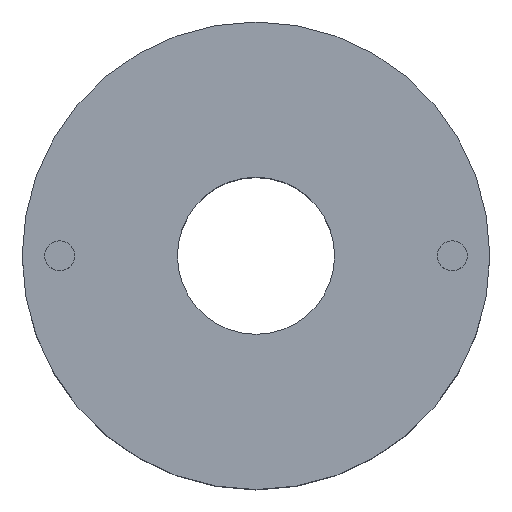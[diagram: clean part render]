
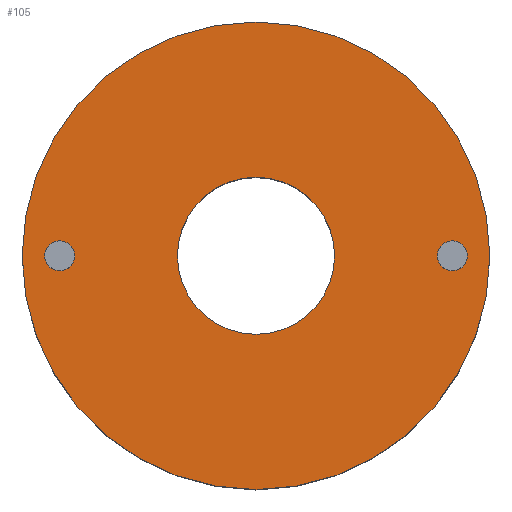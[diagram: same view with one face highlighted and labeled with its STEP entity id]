
A CAD part, top view. The second image highlights one B-rep face of the part: STEP entity #105.
In plain terms, the highlighted planar face has unit normal (0, 0, 1).
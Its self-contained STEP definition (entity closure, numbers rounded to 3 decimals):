
#21 = EDGE_CURVE('',#22,#22,#24,.T.);
#22 = VERTEX_POINT('',#23);
#23 = CARTESIAN_POINT('',(12.5,0.,-13.45));
#24 = SURFACE_CURVE('',#25,(#30,#42),.PCURVE_S1.);
#25 = CIRCLE('',#26,12.5);
#26 = AXIS2_PLACEMENT_3D('',#27,#28,#29);
#27 = CARTESIAN_POINT('',(0.,0.,-13.45));
#28 = DIRECTION('',(0.,0.,1.));
#29 = DIRECTION('',(1.,0.,-0.));
#30 = PCURVE('',#31,#36);
#31 = CYLINDRICAL_SURFACE('',#32,12.5);
#32 = AXIS2_PLACEMENT_3D('',#33,#34,#35);
#33 = CARTESIAN_POINT('',(0.,0.,-25.45));
#34 = DIRECTION('',(0.,0.,1.));
#35 = DIRECTION('',(1.,0.,-0.));
#36 = DEFINITIONAL_REPRESENTATION('',(#37),#41);
#37 = LINE('',#38,#39);
#38 = CARTESIAN_POINT('',(0.,12.));
#39 = VECTOR('',#40,1.);
#40 = DIRECTION('',(1.,0.));
#41 = ( GEOMETRIC_REPRESENTATION_CONTEXT(2) 
PARAMETRIC_REPRESENTATION_CONTEXT() REPRESENTATION_CONTEXT('2D SPACE',''
  ) );
#42 = PCURVE('',#43,#48);
#43 = PLANE('',#44);
#44 = AXIS2_PLACEMENT_3D('',#45,#46,#47);
#45 = CARTESIAN_POINT('',(0.,0.,-13.45));
#46 = DIRECTION('',(0.,0.,1.));
#47 = DIRECTION('',(1.,0.,-0.));
#48 = DEFINITIONAL_REPRESENTATION('',(#49),#53);
#49 = CIRCLE('',#50,12.5);
#50 = AXIS2_PLACEMENT_2D('',#51,#52);
#51 = CARTESIAN_POINT('',(0.,0.));
#52 = DIRECTION('',(1.,0.));
#53 = ( GEOMETRIC_REPRESENTATION_CONTEXT(2) 
PARAMETRIC_REPRESENTATION_CONTEXT() REPRESENTATION_CONTEXT('2D SPACE',''
  ) );
#105 = ADVANCED_FACE('',(#106,#109,#140,#171),#43,.T.);
#106 = FACE_BOUND('',#107,.T.);
#107 = EDGE_LOOP('',(#108));
#108 = ORIENTED_EDGE('',*,*,#21,.T.);
#109 = FACE_BOUND('',#110,.T.);
#110 = EDGE_LOOP('',(#111));
#111 = ORIENTED_EDGE('',*,*,#112,.F.);
#112 = EDGE_CURVE('',#113,#113,#115,.T.);
#113 = VERTEX_POINT('',#114);
#114 = CARTESIAN_POINT('',(-9.7,0.,-13.45));
#115 = SURFACE_CURVE('',#116,(#121,#128),.PCURVE_S1.);
#116 = CIRCLE('',#117,0.8);
#117 = AXIS2_PLACEMENT_3D('',#118,#119,#120);
#118 = CARTESIAN_POINT('',(-10.5,0.,-13.45));
#119 = DIRECTION('',(0.,0.,1.));
#120 = DIRECTION('',(1.,0.,-0.));
#121 = PCURVE('',#43,#122);
#122 = DEFINITIONAL_REPRESENTATION('',(#123),#127);
#123 = CIRCLE('',#124,0.8);
#124 = AXIS2_PLACEMENT_2D('',#125,#126);
#125 = CARTESIAN_POINT('',(-10.5,0.));
#126 = DIRECTION('',(1.,0.));
#127 = ( GEOMETRIC_REPRESENTATION_CONTEXT(2) 
PARAMETRIC_REPRESENTATION_CONTEXT() REPRESENTATION_CONTEXT('2D SPACE',''
  ) );
#128 = PCURVE('',#129,#134);
#129 = CYLINDRICAL_SURFACE('',#130,0.8);
#130 = AXIS2_PLACEMENT_3D('',#131,#132,#133);
#131 = CARTESIAN_POINT('',(-10.5,0.,-13.45));
#132 = DIRECTION('',(0.,0.,1.));
#133 = DIRECTION('',(1.,0.,-0.));
#134 = DEFINITIONAL_REPRESENTATION('',(#135),#139);
#135 = LINE('',#136,#137);
#136 = CARTESIAN_POINT('',(0.,0.));
#137 = VECTOR('',#138,1.);
#138 = DIRECTION('',(1.,0.));
#139 = ( GEOMETRIC_REPRESENTATION_CONTEXT(2) 
PARAMETRIC_REPRESENTATION_CONTEXT() REPRESENTATION_CONTEXT('2D SPACE',''
  ) );
#140 = FACE_BOUND('',#141,.T.);
#141 = EDGE_LOOP('',(#142));
#142 = ORIENTED_EDGE('',*,*,#143,.F.);
#143 = EDGE_CURVE('',#144,#144,#146,.T.);
#144 = VERTEX_POINT('',#145);
#145 = CARTESIAN_POINT('',(4.2,0.,-13.45));
#146 = SURFACE_CURVE('',#147,(#152,#159),.PCURVE_S1.);
#147 = CIRCLE('',#148,4.2);
#148 = AXIS2_PLACEMENT_3D('',#149,#150,#151);
#149 = CARTESIAN_POINT('',(0.,0.,-13.45));
#150 = DIRECTION('',(0.,0.,1.));
#151 = DIRECTION('',(1.,0.,-0.));
#152 = PCURVE('',#43,#153);
#153 = DEFINITIONAL_REPRESENTATION('',(#154),#158);
#154 = CIRCLE('',#155,4.2);
#155 = AXIS2_PLACEMENT_2D('',#156,#157);
#156 = CARTESIAN_POINT('',(0.,0.));
#157 = DIRECTION('',(1.,0.));
#158 = ( GEOMETRIC_REPRESENTATION_CONTEXT(2) 
PARAMETRIC_REPRESENTATION_CONTEXT() REPRESENTATION_CONTEXT('2D SPACE',''
  ) );
#159 = PCURVE('',#160,#165);
#160 = CYLINDRICAL_SURFACE('',#161,4.2);
#161 = AXIS2_PLACEMENT_3D('',#162,#163,#164);
#162 = CARTESIAN_POINT('',(0.,0.,-25.46));
#163 = DIRECTION('',(0.,0.,1.));
#164 = DIRECTION('',(1.,0.,-0.));
#165 = DEFINITIONAL_REPRESENTATION('',(#166),#170);
#166 = LINE('',#167,#168);
#167 = CARTESIAN_POINT('',(0.,12.01));
#168 = VECTOR('',#169,1.);
#169 = DIRECTION('',(1.,0.));
#170 = ( GEOMETRIC_REPRESENTATION_CONTEXT(2) 
PARAMETRIC_REPRESENTATION_CONTEXT() REPRESENTATION_CONTEXT('2D SPACE',''
  ) );
#171 = FACE_BOUND('',#172,.T.);
#172 = EDGE_LOOP('',(#173));
#173 = ORIENTED_EDGE('',*,*,#174,.F.);
#174 = EDGE_CURVE('',#175,#175,#177,.T.);
#175 = VERTEX_POINT('',#176);
#176 = CARTESIAN_POINT('',(11.3,0.,-13.45));
#177 = SURFACE_CURVE('',#178,(#183,#190),.PCURVE_S1.);
#178 = CIRCLE('',#179,0.8);
#179 = AXIS2_PLACEMENT_3D('',#180,#181,#182);
#180 = CARTESIAN_POINT('',(10.5,0.,-13.45));
#181 = DIRECTION('',(0.,0.,1.));
#182 = DIRECTION('',(1.,0.,-0.));
#183 = PCURVE('',#43,#184);
#184 = DEFINITIONAL_REPRESENTATION('',(#185),#189);
#185 = CIRCLE('',#186,0.8);
#186 = AXIS2_PLACEMENT_2D('',#187,#188);
#187 = CARTESIAN_POINT('',(10.5,0.));
#188 = DIRECTION('',(1.,0.));
#189 = ( GEOMETRIC_REPRESENTATION_CONTEXT(2) 
PARAMETRIC_REPRESENTATION_CONTEXT() REPRESENTATION_CONTEXT('2D SPACE',''
  ) );
#190 = PCURVE('',#191,#196);
#191 = CYLINDRICAL_SURFACE('',#192,0.8);
#192 = AXIS2_PLACEMENT_3D('',#193,#194,#195);
#193 = CARTESIAN_POINT('',(10.5,0.,-13.45));
#194 = DIRECTION('',(0.,0.,1.));
#195 = DIRECTION('',(1.,0.,-0.));
#196 = DEFINITIONAL_REPRESENTATION('',(#197),#201);
#197 = LINE('',#198,#199);
#198 = CARTESIAN_POINT('',(0.,0.));
#199 = VECTOR('',#200,1.);
#200 = DIRECTION('',(1.,0.));
#201 = ( GEOMETRIC_REPRESENTATION_CONTEXT(2) 
PARAMETRIC_REPRESENTATION_CONTEXT() REPRESENTATION_CONTEXT('2D SPACE',''
  ) );
